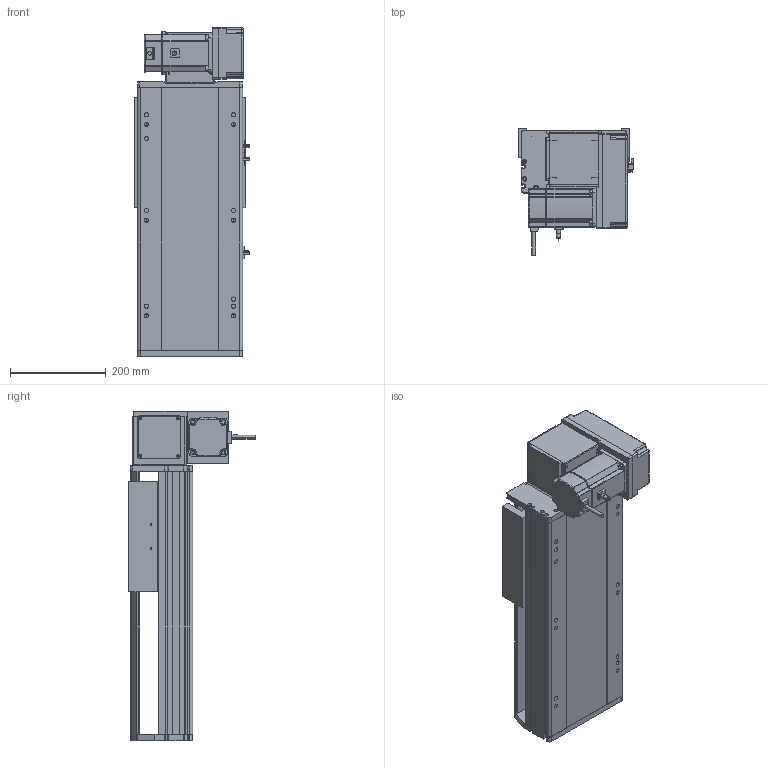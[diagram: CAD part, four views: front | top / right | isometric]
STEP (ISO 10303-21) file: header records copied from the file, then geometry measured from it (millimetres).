
FILE_DESCRIPTION (( 'STEP AP214' ), '1' );
FILE_NAME ('RTB22S-XX-200-RM-M75-C4.STEP', '2025-12-12T07:42:22', ( '' ), ( '' ), 'SwSTEP 2.0', 'SolidWorks 2018', '' );
FILE_SCHEMA (( 'AUTOMOTIVE_DESIGN' ));
Length unit declared in the file: millimetre
Products named in the file (14): RTH22-GY-013外置感应片^RTB22S-XX-XX-RM-M75-C4; RTB22S-GY-007奻裔^RTB22S-XX-XX-RM-M75-C4; RTB22S-L-011菁釱^RTB22S-XX-XX-RM-M75-C4; RTB22S-XX-200-RM-M75-C4; OMRON EE-SX672 传感器^RTB22S-XX-XX-RM-M75-C4; RTB22S-GY-001耜裔^RTB22S-XX-XX-RM-M75-C4; RTB22S-GY-018P^RTB22S-RM-々湍釱蚾饜_RTB22S-XX-XX-RM-M75-C4; RTB22S-RM-々湍釱蚾饜^RTB22S-XX-XX-RM-M75-C4; RTB22S-GY-017P^RTB22S-RM-々湍釱蚾饜_RTB22S-XX-XX-RM-M75-C4; RTB22S-GY-005P^RTB22S-RM-々湍釱蚾饜_RTB22S-XX-XX-RM-M75-C4; 750W萇儂^RTB22S-XX-XX-RM-M75-C4; RTB22S-GY-014--々湍釱^RTB22S-RM-々湍釱蚾饜_RTB22S-XX-XX-RM-M75-C4; RTB22S-GY-008-M75--萇儂啣^RTB22S-RM-々湍釱蚾饜_RTB22S-XX-XX-RM-M75-C4; RTB22S-L-004賑釱^RTB22S-XX-XX-RM-M75-C4
Assembly tree (16 placements, depth 3):
  RTB22S-XX-200-RM-M75-C4
    RTB22S-L-011菁釱^RTB22S-XX-XX-RM-M75-C4
    RTB22S-GY-001耜裔^RTB22S-XX-XX-RM-M75-C4
    750W萇儂^RTB22S-XX-XX-RM-M75-C4
    RTB22S-GY-007奻裔^RTB22S-XX-XX-RM-M75-C4
    RTB22S-L-004賑釱^RTB22S-XX-XX-RM-M75-C4
    RTH22-GY-013外置感应片^RTB22S-XX-XX-RM-M75-C4
    OMRON EE-SX672 传感器^RTB22S-XX-XX-RM-M75-C4  x3
    RTB22S-RM-々湍釱蚾饜^RTB22S-XX-XX-RM-M75-C4
      RTB22S-GY-014--々湍釱^RTB22S-RM-々湍釱蚾饜_RTB22S-XX-XX-RM-M75-C4
      RTB22S-GY-017P^RTB22S-RM-々湍釱蚾饜_RTB22S-XX-XX-RM-M75-C4  x2
      RTB22S-GY-005P^RTB22S-RM-々湍釱蚾饜_RTB22S-XX-XX-RM-M75-C4
      RTB22S-GY-008-M75--萇儂啣^RTB22S-RM-々湍釱蚾饜_RTB22S-XX-XX-RM-M75-C4
      RTB22S-GY-018P^RTB22S-RM-々湍釱蚾饜_RTB22S-XX-XX-RM-M75-C4
Bounding box: 238.5 x 264.7 x 687.5 mm (x, y, z)
Volume: 11973250.5 mm3; surface area: 1283068.1 mm2
Topology: 15 solids, 15 shells, 1893 faces, 5136 edges, 3302 vertices
Faces by surface type: plane 905, cylinder 562, bspline 296, cone 118, sphere 8, torus 4
Entity records: 49478 total; most frequent: CARTESIAN_POINT 14432, ORIENTED_EDGE 7100, DIRECTION 6744, EDGE_CURVE 3550, AXIS2_PLACEMENT_3D 2346, VERTEX_POINT 2306, LINE 2052, VECTOR 2052
